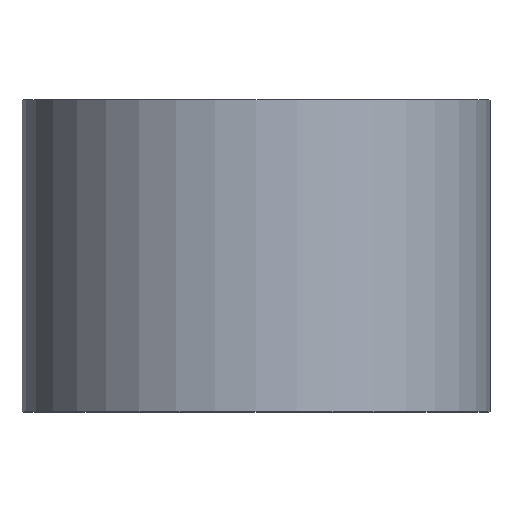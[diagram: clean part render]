
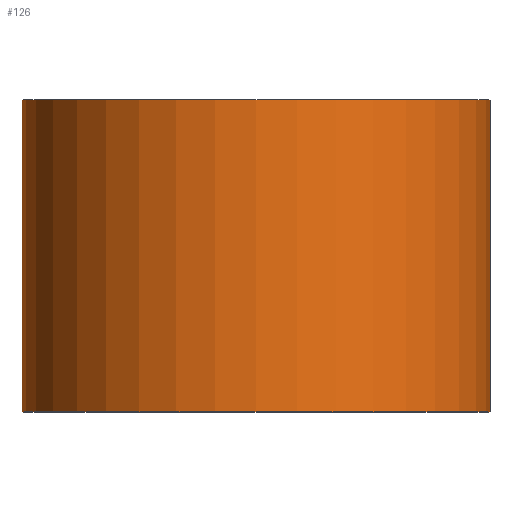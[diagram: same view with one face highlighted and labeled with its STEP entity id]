
A CAD part, top view. The second image highlights one B-rep face of the part: STEP entity #126.
In plain terms, the highlighted cylindrical face has radius 9 mm (diameter 18 mm), a partial arc.
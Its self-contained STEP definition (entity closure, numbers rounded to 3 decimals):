
#9 = DIRECTION ( 'NONE',  ( 0., 1., 0. ) ) ;
#13 = VERTEX_POINT ( 'NONE', #68 ) ;
#19 = CARTESIAN_POINT ( 'NONE',  ( 0., 0., 0. ) ) ;
#24 = VECTOR ( 'NONE', #9, 1000. ) ;
#30 = AXIS2_PLACEMENT_3D ( 'NONE', #201, #165, #185 ) ;
#52 = FACE_OUTER_BOUND ( 'NONE', #132, .T. ) ;
#62 = LINE ( 'NONE', #177, #24 ) ;
#68 = CARTESIAN_POINT ( 'NONE',  ( 9., 0., 0. ) ) ;
#81 = EDGE_CURVE ( 'NONE', #13, #194, #62, .T. ) ;
#99 = VERTEX_POINT ( 'NONE', #158 ) ;
#100 = DIRECTION ( 'NONE',  ( 0., 1., 0. ) ) ;
#115 = ORIENTED_EDGE ( 'NONE', *, *, #81, .T. ) ;
#120 = VECTOR ( 'NONE', #142, 1000. ) ;
#126 = ADVANCED_FACE ( 'NONE', ( #52 ), #145, .T. ) ;
#132 = EDGE_LOOP ( 'NONE', ( #148, #115, #176, #153 ) ) ;
#135 = AXIS2_PLACEMENT_3D ( 'NONE', #210, #263, #264 ) ;
#142 = DIRECTION ( 'NONE',  ( 0., 1., 0. ) ) ;
#145 = CYLINDRICAL_SURFACE ( 'NONE', #276, 9. ) ;
#148 = ORIENTED_EDGE ( 'NONE', *, *, #272, .T. ) ;
#153 = ORIENTED_EDGE ( 'NONE', *, *, #217, .F. ) ;
#154 = VERTEX_POINT ( 'NONE', #252 ) ;
#158 = CARTESIAN_POINT ( 'NONE',  ( -9., 12., 0. ) ) ;
#165 = DIRECTION ( 'NONE',  ( 0., 1., 0. ) ) ;
#176 = ORIENTED_EDGE ( 'NONE', *, *, #301, .F. ) ;
#177 = CARTESIAN_POINT ( 'NONE',  ( 9., 0., 0. ) ) ;
#181 = CARTESIAN_POINT ( 'NONE',  ( -9., 0., 0. ) ) ;
#185 = DIRECTION ( 'NONE',  ( -1., 0., 0. ) ) ;
#194 = VERTEX_POINT ( 'NONE', #286 ) ;
#201 = CARTESIAN_POINT ( 'NONE',  ( 0., 12., 0. ) ) ;
#210 = CARTESIAN_POINT ( 'NONE',  ( 0., 0., 0. ) ) ;
#217 = EDGE_CURVE ( 'NONE', #154, #99, #251, .T. ) ;
#240 = CIRCLE ( 'NONE', #30, 9. ) ;
#251 = LINE ( 'NONE', #181, #120 ) ;
#252 = CARTESIAN_POINT ( 'NONE',  ( -9., 0., 0. ) ) ;
#256 = DIRECTION ( 'NONE',  ( -1., 0., 0. ) ) ;
#263 = DIRECTION ( 'NONE',  ( 0., 1., 0. ) ) ;
#264 = DIRECTION ( 'NONE',  ( -1., 0., 0. ) ) ;
#272 = EDGE_CURVE ( 'NONE', #154, #13, #282, .T. ) ;
#276 = AXIS2_PLACEMENT_3D ( 'NONE', #19, #100, #256 ) ;
#282 = CIRCLE ( 'NONE', #135, 9. ) ;
#286 = CARTESIAN_POINT ( 'NONE',  ( 9., 12., 0. ) ) ;
#301 = EDGE_CURVE ( 'NONE', #99, #194, #240, .T. ) ;
